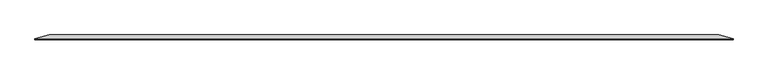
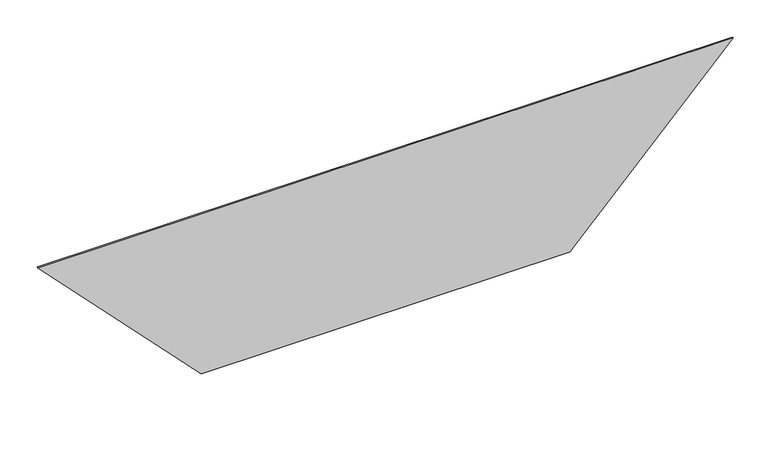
"""IFC4 building model written with IfcOpenShell, lengths in millimetres: proxy geometry, AERO^TABLE 2_ATS1S-4848^Shroud 0107."""

from ifc_helpers import new_model, si_unit, origin, place, context, project, spatial, faceted_brep, source, transform, mapped, element, save


def generic_models_1be812d6(model_context):
    return source(origin(), model_context, "Body", "Brep", [
        faceted_brep([(1810.6302293, 12.7, -35.9515377), (1847.85, 3.0668145, 0.0), (1847.85, 0.0, -0.8217505), (1419.2897202, 0.0, -444.5), (1419.2897202, 12.7, -441.0970453), (25.4, 3.0668145, 0.0), (25.4, 0.0, -0.8217505), (62.6197707, 12.7, -35.9515377), (453.9602798, 12.7, -441.0970453), (453.9602798, 0.0, -444.5)], [[[0, 1, 2, 3, 4]], [[2, 1, 5, 6]], [[1, 0, 7, 5]], [[0, 4, 8, 7]], [[6, 5, 7, 8, 9]], [[4, 3, 9, 8]], [[3, 2, 6, 9]]]),
    ])


if __name__ == "__main__":
    model = new_model("IFC4")
    model_context = context("Model", 3, world=origin())
    ifc_project = project(units=[si_unit("LENGTHUNIT", "METRE", prefix="MILLI")], contexts=[model_context])
    site = spatial("IfcSite", under=ifc_project)
    building = spatial("IfcBuilding", under=site)
    placement = place(None, origin())
    generic_models_shape = generic_models_1be812d6(model_context)
    element("IfcBuildingElementProxy", 1, Name="AERO^TABLE 2_ATS1S-4848^Shroud 0107", ObjectType="AERO^TABLE 2_ATS1S-4848^Shroud 0107", at=placement, inside=building, context=model_context, shape_type="MappedRepresentation", body=[
        mapped(generic_models_shape, transform((0.0, 0.0, 0.0), x_axis=(1.0, 0.0, 0.0), y_axis=(0.0, 1.0, 0.0), z_axis=(0.0, 0.0, 1.0))),
    ])
    save(model, "model.ifc")
